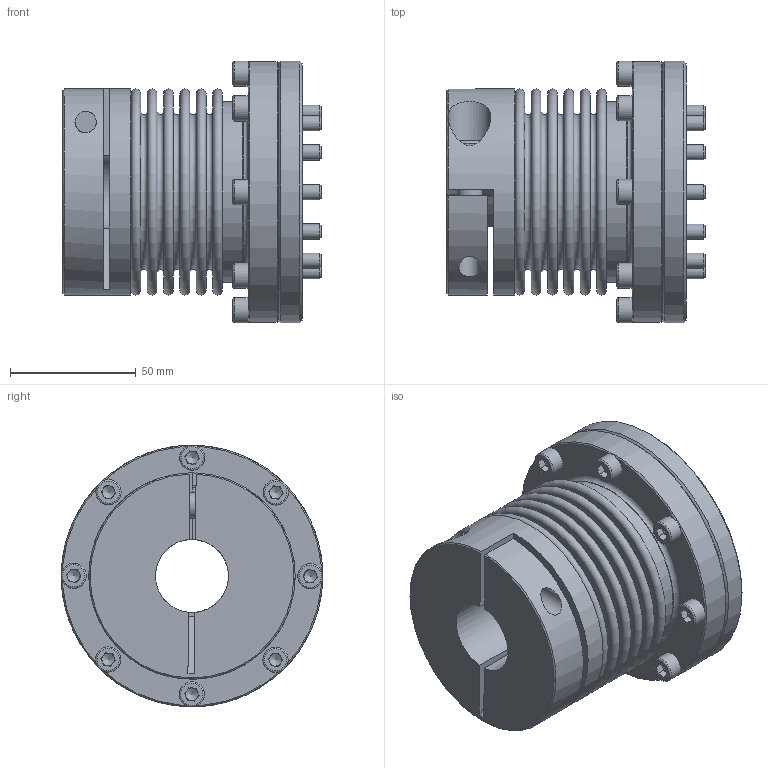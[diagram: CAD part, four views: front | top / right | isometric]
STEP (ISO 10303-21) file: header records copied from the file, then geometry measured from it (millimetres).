
FILE_DESCRIPTION( ( 'Unknown' ), '1' );
FILE_NAME( 'C:/Users/skarpstein/Desktop/KB4F/KB4F-150-90.stp', 'Unknown', ( 'Unknown' ), ( 'Unknown' ), 'PSStep 16.0.42', 'Unknown', ' ' );
FILE_SCHEMA( ( 'AUTOMOTIVE_DESIGN { 1 0 10303 214 1 1 1 1 }' ) );
Length unit declared in the file: millimetre
Products named in the file (8): Assem1; KN80-150C_Standard; Socket Head Cap Screw_DIN_DIN 912 M10 x 30 --- 30N_8; ISO 4017 - M6 x 20-N; Kupplungsflansch F150; Flansch A63-F150; Socket Head Cap Screw_DIN_DIN 912 M6 x 20 --- 20C; BL80-150_Standard_4
Assembly tree (25 placements, depth 2):
  Assem1
    KN80-150C_Standard
    Socket Head Cap Screw_DIN_DIN 912 M10 x 30 --- 30N_8
    ISO 4017 - M6 x 20-N  x12
    Kupplungsflansch F150
    Flansch A63-F150
    Socket Head Cap Screw_DIN_DIN 912 M6 x 20 --- 20C  x8
    BL80-150_Standard_4
Bounding box: 102.55 x 104 x 104 mm (x, y, z)
Volume: 278836.8 mm3; surface area: 154300.5 mm2
Topology: 25 solids, 25 shells, 619 faces, 1331 edges, 811 vertices
Faces by surface type: plane 362, cone 114, cylinder 89, torus 54
Full cylindrical faces by diameter (mm): 4.917 x8, 6 x20, 6.6 x20, 8.5 x1, 10 x22, 16 x1, 17 x1, 29 x1, 45 x1, 50 x1, 70.7 x3, 71.9 x2, 80 x3, 82 x1, 104 x2
Entity records: 6930 total; most frequent: CARTESIAN_POINT 995, DIRECTION 940, ORIENTED_EDGE 614, AXIS2_PLACEMENT_3D 426, EDGE_LOOP 392, EDGE_CURVE 307, FACE_OUTER_BOUND 277, VERTEX_POINT 265
